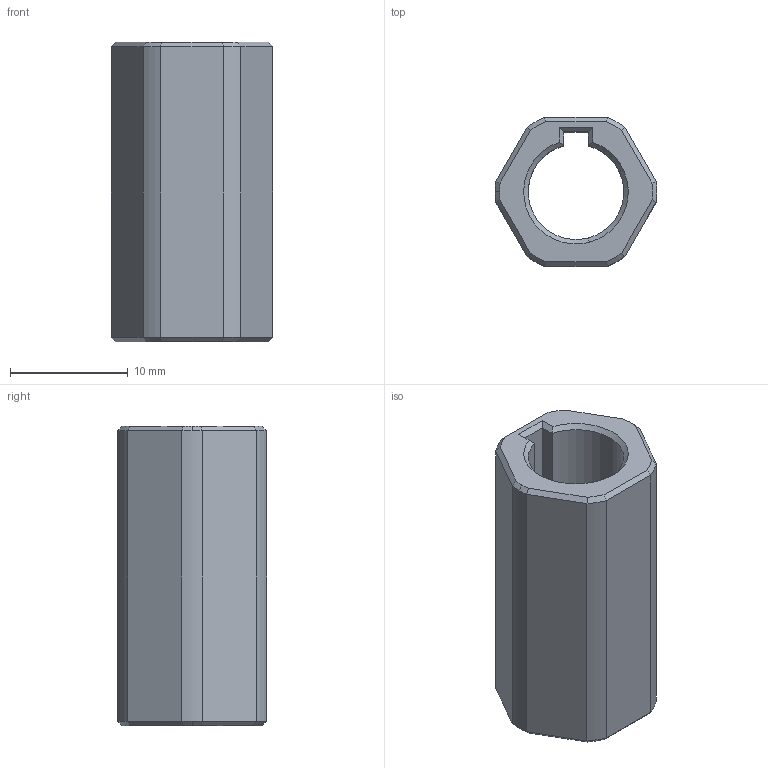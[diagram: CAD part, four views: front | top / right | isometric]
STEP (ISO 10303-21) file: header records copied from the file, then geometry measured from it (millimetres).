
FILE_DESCRIPTION (( 'STEP AP214' ), '1' );
FILE_NAME ('8mm to 1_2_ Hex Adapter-WCP-0794.step', '2025-12-23T15:51:57', ( '' ), ( '' ), 'SwSTEP 2.0', 'SolidWorks 2026', '' );
FILE_SCHEMA (( 'AUTOMOTIVE_DESIGN' ));
Length unit declared in the file: inch
Products named in the file (1): 8mm to 1_2_ Hex Adapter-WCP-0794
Bounding box: 13.72 x 12.65 x 25.4 mm (x, y, z)
Volume: 2087.4 mm3; surface area: 1912.1 mm2
Topology: 1 solids, 1 shells, 56 faces, 128 edges, 74 vertices
Faces by surface type: plane 29, cone 18, cylinder 9
Entity records: 1593 total; most frequent: DIRECTION 300, CARTESIAN_POINT 271, ORIENTED_EDGE 256, EDGE_CURVE 128, AXIS2_PLACEMENT_3D 119, VERTEX_POINT 74, VECTOR 62, LINE 62
